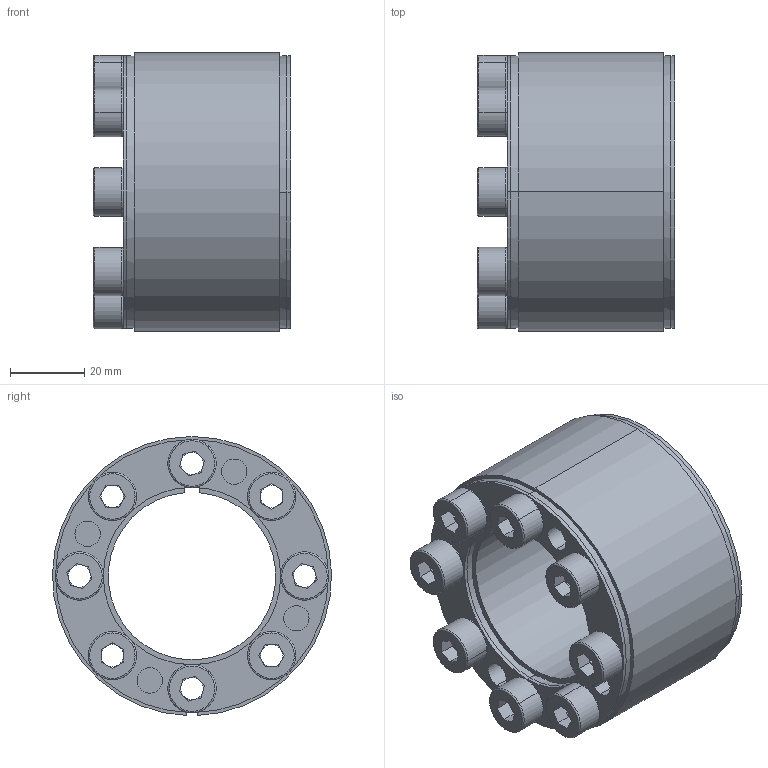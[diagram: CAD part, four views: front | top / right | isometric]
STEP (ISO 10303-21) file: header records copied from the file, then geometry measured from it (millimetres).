
FILE_DESCRIPTION (( 'STEP AP203' ), '1' );
FILE_NAME ('D4-42-75.STEP', '2017-10-14T07:47:17', ( 'MYCOM' ), ( '' ), 'SwSTEP 2.0', 'SolidWorks 2015', '' );
FILE_SCHEMA (( 'CONFIG_CONTROL_DESIGN' ));
Length unit declared in the file: millimetre
Products named in the file (1): D4-42-75
Bounding box: 53 x 74.98 x 74.97 mm (x, y, z)
Surface area: 52304.5 mm2 (no closed solid volume)
Topology: 0 solids, 13 shells, 233 faces, 637 edges, 412 vertices
Faces by surface type: plane 114, cylinder 77, torus 32, cone 10
Entity records: 7610 total; most frequent: DIRECTION 1418, CARTESIAN_POINT 1337, ORIENTED_EDGE 1141, EDGE_CURVE 637, AXIS2_PLACEMENT_3D 555, VERTEX_POINT 412, CIRCLE 321, VECTOR 308
